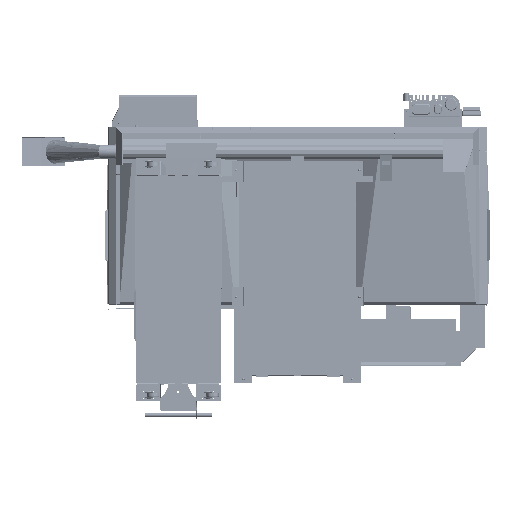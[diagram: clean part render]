
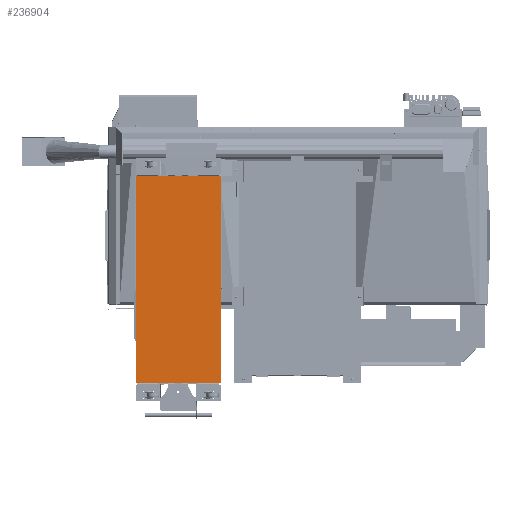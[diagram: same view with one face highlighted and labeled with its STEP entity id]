
A CAD part, front view. The second image highlights one B-rep face of the part: STEP entity #236904.
In plain terms, the highlighted planar face has unit normal (0, -1, 0).
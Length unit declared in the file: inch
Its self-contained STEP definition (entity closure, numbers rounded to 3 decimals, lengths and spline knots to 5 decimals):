
#4121 = LINE ( 'NONE', #308789, #581978 ) ;
#43002 = LINE ( 'NONE', #114152, #297831 ) ;
#46400 = VERTEX_POINT ( 'NONE', #421952 ) ;
#60837 = EDGE_CURVE ( 'NONE', #46400, #245653, #43002, .T. ) ;
#95980 = EDGE_LOOP ( 'NONE', ( #589840, #342485, #464777, #672101 ) ) ;
#112362 = LINE ( 'NONE', #416345, #239607 ) ;
#114152 = CARTESIAN_POINT ( 'NONE',  ( -33.41086, -0.0747, -13.6513 ) ) ;
#114428 = LINE ( 'NONE', #609292, #675277 ) ;
#119152 = DIRECTION ( 'NONE',  ( 0., -1., 0. ) ) ;
#130862 = CARTESIAN_POINT ( 'NONE',  ( -33.401, -0.0747, 13.6513 ) ) ;
#138273 = AXIS2_PLACEMENT_3D ( 'NONE', #335220, #119152, #499273 ) ;
#190118 = CARTESIAN_POINT ( 'NONE',  ( 33.401, -0.0747, 13.6513 ) ) ;
#198406 = CARTESIAN_POINT ( 'NONE',  ( 33.401, -0.0747, -13.6513 ) ) ;
#236904 = ADVANCED_FACE ( 'NONE', ( #624209 ), #280641, .T. ) ;
#239607 = VECTOR ( 'NONE', #249949, 39.37008 ) ;
#245653 = VERTEX_POINT ( 'NONE', #198406 ) ;
#249949 = DIRECTION ( 'NONE',  ( 0., 0., -1. ) ) ;
#280641 = PLANE ( 'NONE',  #138273 ) ;
#283744 = DIRECTION ( 'NONE',  ( -1., 0., 0. ) ) ;
#297831 = VECTOR ( 'NONE', #494182, 39.37008 ) ;
#308789 = CARTESIAN_POINT ( 'NONE',  ( 33.401, -0.0747, -13.66116 ) ) ;
#335220 = CARTESIAN_POINT ( 'NONE',  ( 0., -0.0747, 0. ) ) ;
#342485 = ORIENTED_EDGE ( 'NONE', *, *, #60837, .T. ) ;
#374480 = EDGE_CURVE ( 'NONE', #538435, #542770, #114428, .T. ) ;
#416345 = CARTESIAN_POINT ( 'NONE',  ( -33.401, -0.0747, 13.66116 ) ) ;
#421952 = CARTESIAN_POINT ( 'NONE',  ( -33.401, -0.0747, -13.6513 ) ) ;
#443566 = EDGE_CURVE ( 'NONE', #245653, #538435, #4121, .T. ) ;
#448739 = EDGE_CURVE ( 'NONE', #542770, #46400, #112362, .T. ) ;
#464777 = ORIENTED_EDGE ( 'NONE', *, *, #443566, .T. ) ;
#494182 = DIRECTION ( 'NONE',  ( 1., 0., 0. ) ) ;
#499273 = DIRECTION ( 'NONE',  ( 0., 0., -1. ) ) ;
#538435 = VERTEX_POINT ( 'NONE', #190118 ) ;
#542770 = VERTEX_POINT ( 'NONE', #130862 ) ;
#581978 = VECTOR ( 'NONE', #688839, 39.37008 ) ;
#589840 = ORIENTED_EDGE ( 'NONE', *, *, #448739, .T. ) ;
#609292 = CARTESIAN_POINT ( 'NONE',  ( 33.41086, -0.0747, 13.6513 ) ) ;
#624209 = FACE_OUTER_BOUND ( 'NONE', #95980, .T. ) ;
#672101 = ORIENTED_EDGE ( 'NONE', *, *, #374480, .T. ) ;
#675277 = VECTOR ( 'NONE', #283744, 39.37008 ) ;
#688839 = DIRECTION ( 'NONE',  ( 0., 0., 1. ) ) ;
